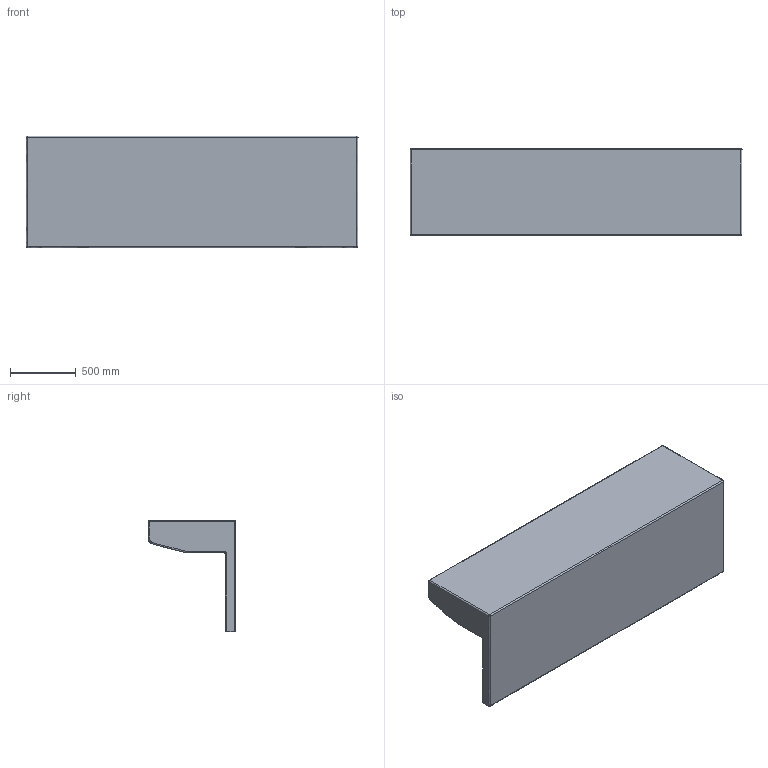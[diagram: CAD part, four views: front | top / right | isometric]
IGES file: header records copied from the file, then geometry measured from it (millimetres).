
Start section: SolidWorks IGES file using NURBS representation for surfaces
Global section: file name: D:\VICCARBE\PRODUCTOS\19-MASS\04-MODELADOS (PLANOS)\SOLIDWORKS\PIEZAS\Backs\01-IGES\VICCARBE_Back_252.IGS; native system: SolidWorks 2009; preprocessor: SolidWorks 2009; author: RUBEN; date: 110908.154846; units: millimetre
Bounding box: 2520 x 664.95 x 850 mm (x, y, z)
Surface area: 7768594.3 mm2 (no closed solid volume)
Topology: 0 solids, 0 shells, 44 faces, 296 edges, 290 vertices
Faces by surface type: bspline 44
